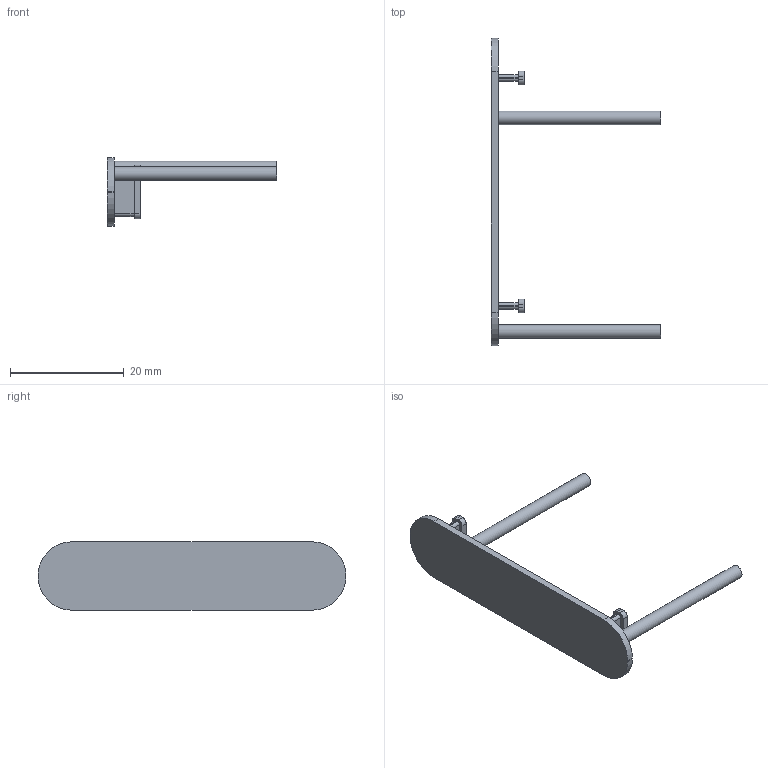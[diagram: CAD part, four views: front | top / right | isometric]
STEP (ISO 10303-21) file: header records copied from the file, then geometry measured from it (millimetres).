
FILE_DESCRIPTION(/* description */ (''),/* implementation_level */ '2;1');
FILE_NAME(/* name */ 'P05.step',/* time_stamp */ '2026-09-14T14:30:33-07:00',/* author */ (''),/* organization */ (''),/* preprocessor_version */ 'ST-DEVELOPER v20.1',/* originating_system */ 'Autodesk Translation Framework v15.8.0.0',/* authorisation */ '');
FILE_SCHEMA (('AUTOMOTIVE_DESIGN { 1 0 10303 214 3 1 1 }'));
Length unit declared in the file: millimetre
Products named in the file (1): 2026-09-14-14-30-33-352
Bounding box: 29.7 x 54 x 12 mm (x, y, z)
Volume: 1116.8 mm3; surface area: 2037.7 mm2
Topology: 1 solids, 1 shells, 64 faces, 162 edges, 108 vertices
Faces by surface type: plane 38, cylinder 26
Full cylindrical faces by diameter (mm): 2.4 x2
Entity records: 1971 total; most frequent: DIRECTION 344, CARTESIAN_POINT 335, ORIENTED_EDGE 324, EDGE_CURVE 162, AXIS2_PLACEMENT_3D 117, LINE 110, VECTOR 110, VERTEX_POINT 108
